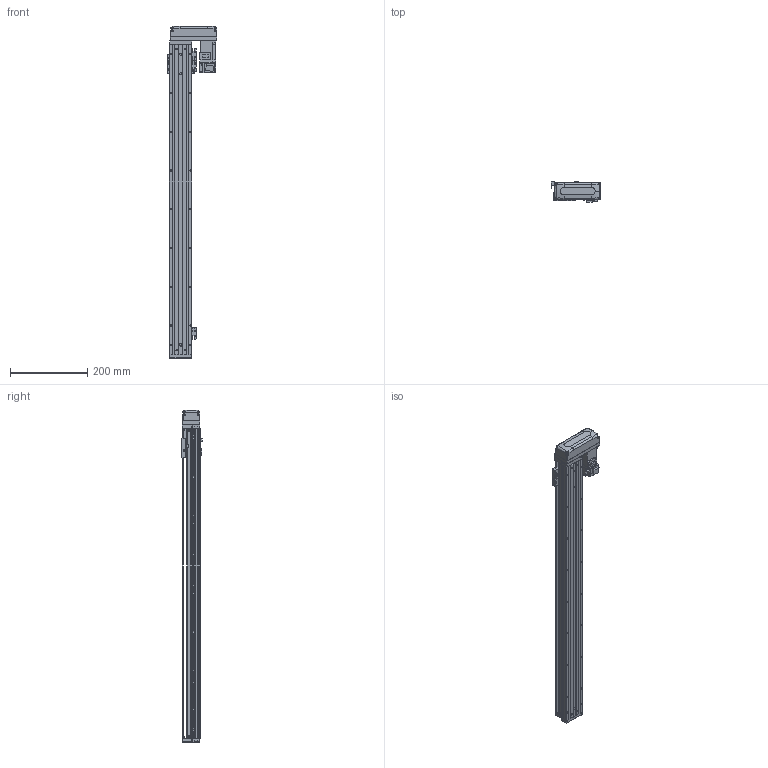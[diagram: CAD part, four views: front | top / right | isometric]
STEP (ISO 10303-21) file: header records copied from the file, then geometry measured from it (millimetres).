
FILE_DESCRIPTION (( 'STEP AP203' ), '1' );
FILE_NAME ('KTHA50-700-BL-M10-C4L.step', '2022-03-19T07:07:36', ( '微软用户' ), ( '微软中国' ), 'SwSTEP 2.0', 'SolidWorks 2020', '' );
FILE_SCHEMA (( 'CONFIG_CONTROL_DESIGN' ));
Length unit declared in the file: millimetre
Products named in the file (18): KTHA50-700-BL-M10-C4L; GBT77-2000 M3×3; CTHA60-021; KTHA50-001_800; GBT 70.1-M3℅6; GBT 70.3-M3℅6; KTHA50-002; CTHA60-017; HG-KR13（三菱）; KTHA50-004; GBT 70.1-M4×12; CTHA50-015-2_CTHA60-015-2; KTHA50-005; CTHA60-016; CTHA60-033; GB¨uT 70.2-M3¡Á6_M3¡Á6; GBT 70.1-M3×15; EE_SX911P_R
Assembly tree (53 placements, depth 2):
  KTHA50-700-BL-M10-C4L
    KTHA50-001_800
    KTHA50-002
    KTHA50-004
    KTHA50-005
    GB¨uT 70.2-M3¡Á6_M3¡Á6  x6
    EE_SX911P_R  x3
    GBT77-2000 M3×3  x6
    GBT 70.1-M3℅6  x6
    CTHA60-017  x3
    GBT 70.1-M4×12  x10
    CTHA60-016  x2
    CTHA60-021  x2
    GBT 70.3-M3℅6  x4
    HG-KR13（三菱）
    CTHA50-015-2_CTHA60-015-2
    CTHA60-033
    GBT 70.1-M3×15  x4
Bounding box: 128.4 x 53.3 x 857 mm (x, y, z)
Volume: 1658777.3 mm3; surface area: 405748.7 mm2
Topology: 56 solids, 56 shells, 2323 faces, 5519 edges, 3388 vertices
Faces by surface type: plane 1300, cylinder 568, cone 313, torus 100, bspline 26, sphere 16
Entity records: 40173 total; most frequent: CARTESIAN_POINT 7570, DIRECTION 6295, ORIENTED_EDGE 6050, EDGE_CURVE 3025, AXIS2_PLACEMENT_3D 2129, VECTOR 2037, LINE 2037, VERTEX_POINT 1902
